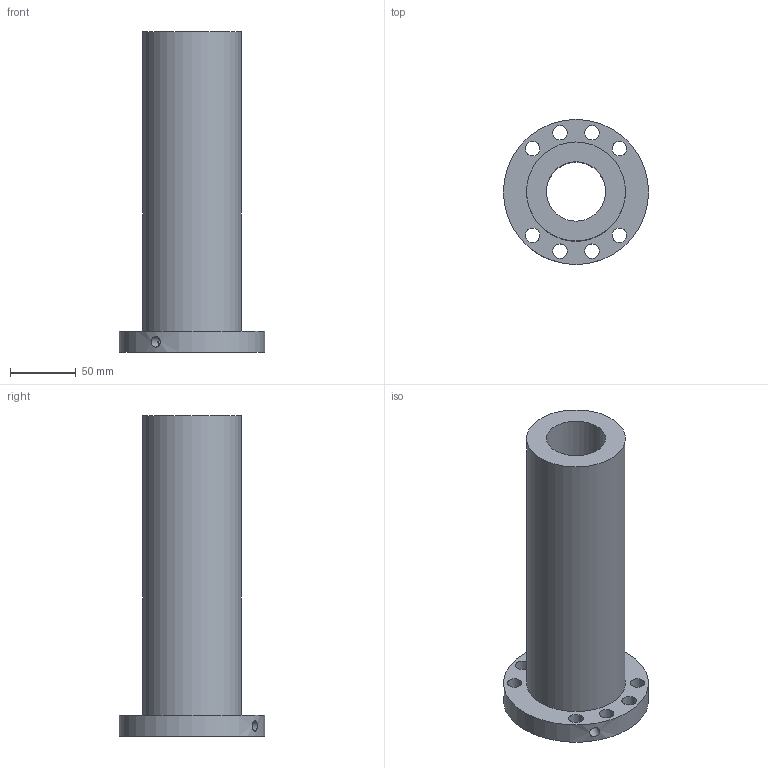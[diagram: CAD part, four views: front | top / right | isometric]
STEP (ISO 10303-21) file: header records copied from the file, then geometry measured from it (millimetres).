
FILE_DESCRIPTION(/* description */ (''),/* implementation_level */ '2;1');
FILE_NAME(/* name */ '45-16K5_7144',/* time_stamp */ '2007-10-15T12:53:56+08:00',/* author */ (''),/* organization */ (''),/* preprocessor_version */ 'ST-DEVELOPER v11',/* originating_system */ 'UGS - NX 5.0',/* authorisation */ '');
FILE_SCHEMA (('CONFIG_CONTROL_DESIGN'));
Length unit declared in the file: millimetre
Products named in the file (1): 45-16K5_7144
Bounding box: 110 x 110 x 243 mm (x, y, z)
Volume: 755131.4 mm3; surface area: 112715.6 mm2
Topology: 1 solids, 1 shells, 17 faces, 40 edges, 27 vertices
Faces by surface type: cylinder 13, plane 4
Full cylindrical faces by diameter (mm): 6 x1, 8 x1, 11 x8, 45 x1, 75 x1, 110 x1
Entity records: 668 total; most frequent: CARTESIAN_POINT 184, DIRECTION 84, FACE_BOUND 52, EDGE_LOOP 52, ORIENTED_EDGE 52, AXIS2_PLACEMENT_3D 42, VERTEX_POINT 26, EDGE_CURVE 26
